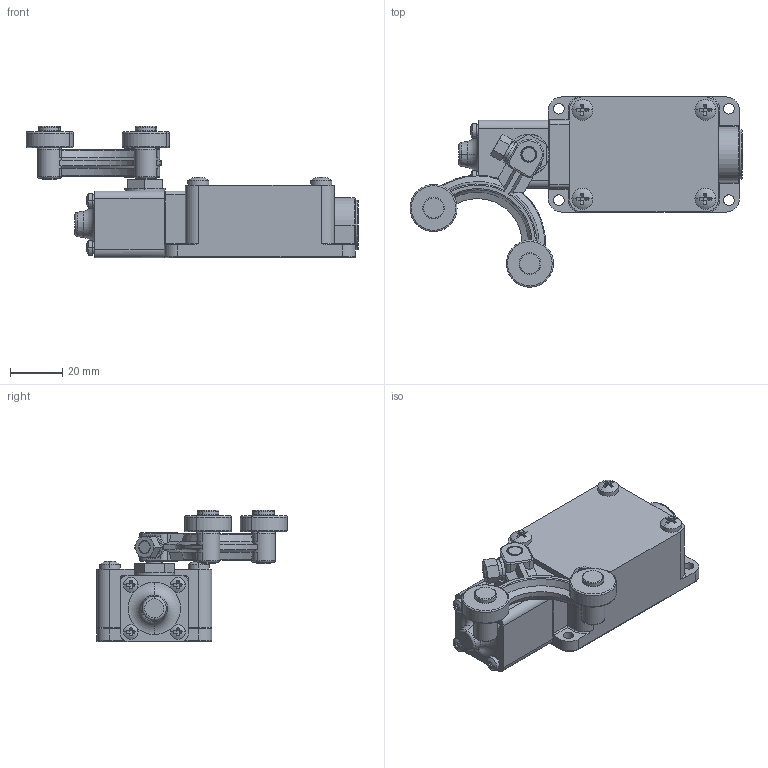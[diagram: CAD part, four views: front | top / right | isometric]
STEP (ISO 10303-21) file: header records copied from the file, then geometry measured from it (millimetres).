
FILE_DESCRIPTION((''),'2;1');
FILE_NAME('222','2025-05-06T',('qinxiong.ji'),(''),'PRO/ENGINEER BY PARAMETRIC TECHNOLOGY CORPORATION, 2015440','PRO/ENGINEER BY PARAMETRIC TECHNOLOGY CORPORATION, 2015440','');
FILE_SCHEMA(('CONFIG_CONTROL_DESIGN'));
Length unit declared in the file: millimetre
Products named in the file (1): 222
Bounding box: 126.91 x 72.81 x 50.25 mm (x, y, z)
Volume: 105263.2 mm3; surface area: 25971.1 mm2
Topology: 3 solids, 9 shells, 670 faces, 1687 edges, 1040 vertices
Faces by surface type: plane 311, cylinder 181, torus 109, cone 53, sphere 16
Entity records: 21614 total; most frequent: CARTESIAN_POINT 5305, DIRECTION 3553, ORIENTED_EDGE 3366, EDGE_CURVE 1683, AXIS2_PLACEMENT_3D 1417, VERTEX_POINT 1040, CIRCLE 747, EDGE_LOOP 723
